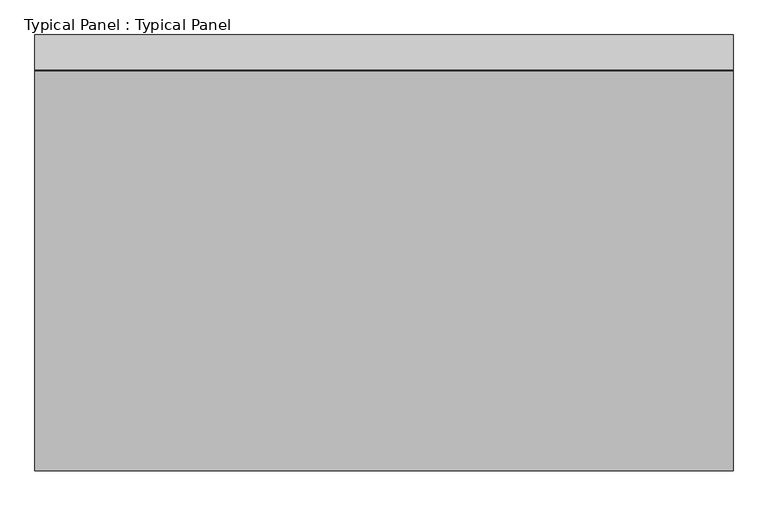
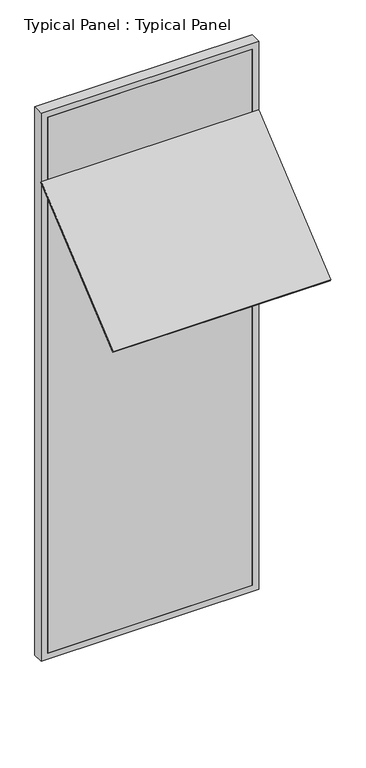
"""IFC4 building model written with IfcOpenShell, lengths in millimetres: plate geometry, Typical Panel : Typical Panel."""

import ifcopenshell
import ifcopenshell.guid

model = None  # the IFC model being written
_history = None  # IfcOwnerHistory: only IFC2X3 demands one
_inside = {}  # id of a spatial element -> (the spatial element, [elements in it])
_under = {}  # id of a project, library or spatial element -> (it, [spatial elements below it])
_declared = {}  # id of a project -> (the project, [libraries it declares])
_typed = {}  # id of a type object -> (the type object, [elements of that type])
_made_of = {}  # id of a material, layer set ... -> (it, [elements and type objects made of it])


def new_model(schema):
    """Start an empty IFC model of exactly this schema.

    Asked for "IFC4X3", IfcOpenShell would pick the latest addendum, in which some entities
    have other attributes; the version numbers below select the first issue.
    IFC2X3 requires an IfcOwnerHistory on every rooted entity: one is made here for all.
    """
    global model, _history
    if schema == "IFC4X3":
        model = ifcopenshell.file(schema_version=(4, 3, 0, 0))
    else:
        model = ifcopenshell.file(schema=schema)
    _inside.clear()
    _under.clear()
    _declared.clear()
    _typed.clear()
    _made_of.clear()
    _history = None
    if model.schema == "IFC2X3":
        org = make("IfcOrganization", Name="unknown")
        user = make(
            "IfcPersonAndOrganization",
            ThePerson=make("IfcPerson", FamilyName="unknown"),
            TheOrganization=org,
        )
        app = make(
            "IfcApplication",
            ApplicationDeveloper=org,
            Version="unknown",
            ApplicationFullName="unknown",
            ApplicationIdentifier="unknown",
        )
        _history = make(
            "IfcOwnerHistory",
            OwningUser=user,
            OwningApplication=app,
            ChangeAction="ADDED",
            CreationDate=0,
        )
    return model


def make(cls, **values):
    """One entity of the class cls with the attributes given. An attribute that is None is left unset."""
    return model.create_entity(
        cls, **{name: value for name, value in values.items() if value is not None}
    )


def rooted(cls, **values):
    """An entity with a GlobalId (a new one), such as an element, a storey or a relation."""
    return make(cls, GlobalId=ifcopenshell.guid.new(), OwnerHistory=_history, **values)


def si_unit(unit_type, name, prefix=None):
    """IfcSIUnit, for example si_unit("LENGTHUNIT", "METRE", prefix="MILLI")."""
    return make("IfcSIUnit", UnitType=unit_type, Prefix=prefix, Name=name)


def assignment(units):
    """IfcUnitAssignment: the units of a project."""
    return None if units is None else make("IfcUnitAssignment", Units=units)


def point(xyz):
    """IfcCartesianPoint."""
    return None if xyz is None else make("IfcCartesianPoint", Coordinates=xyz)


def direction(xyz):
    """IfcDirection."""
    return None if xyz is None else make("IfcDirection", DirectionRatios=xyz)


def frame(location, z_axis=None, x_axis=None):
    """IfcAxis2Placement3D, a coordinate frame: its origin and axes. An axis left out is left unset."""
    return make(
        "IfcAxis2Placement3D",
        Location=point(location),
        Axis=direction(z_axis),
        RefDirection=direction(x_axis),
    )


def origin():
    """The frame at (0, 0, 0) with its axes left unset."""
    return frame((0.0, 0.0, 0.0))


def place(relative_to, where):
    """IfcLocalPlacement: puts the frame where relative to a parent placement (None: the world)."""
    return make(
        "IfcLocalPlacement", PlacementRelTo=relative_to, RelativePlacement=where
    )


def context(
    kind, dimensions, precision=None, world=None, true_north=None, identifier=None
):
    """IfcGeometricRepresentationContext, for example the 3D "Model" context."""
    return make(
        "IfcGeometricRepresentationContext",
        ContextIdentifier=identifier,
        ContextType=kind,
        CoordinateSpaceDimension=dimensions,
        Precision=precision,
        WorldCoordinateSystem=world,
        TrueNorth=true_north,
    )


def project(units=None, contexts=None):
    """IfcProject with its units and contexts."""
    return rooted(
        "IfcProject",
        Name="project",
        RepresentationContexts=contexts,
        UnitsInContext=assignment(units),
    )


def spatial(cls, under=None, at=None, **own):
    """A site, building, storey or space (cls), placed at a placement, below another one or the project."""
    s = rooted(cls, ObjectPlacement=at, **own)
    if under is not None:
        _under.setdefault(under.id(), (under, []))[1].append(s)
    return s


def polyline(points):
    """IfcPolyline through the points."""
    return make("IfcPolyline", Points=[point(p) for p in points])


def outline(outer, holes=None, kind="AREA"):
    """IfcArbitraryClosedProfileDef: a profile drawn as a closed curve; with holes, ...WithVoids."""
    if holes is None:
        return make("IfcArbitraryClosedProfileDef", ProfileType=kind, OuterCurve=outer)
    return make(
        "IfcArbitraryProfileDefWithVoids",
        ProfileType=kind,
        OuterCurve=outer,
        InnerCurves=holes,
    )


def extrude(swept, where, along, depth):
    """IfcExtrudedAreaSolid: the profile swept, set in the frame where, extruded along a direction by depth."""
    return make(
        "IfcExtrudedAreaSolid",
        SweptArea=swept,
        Position=where,
        ExtrudedDirection=direction(along),
        Depth=depth,
    )


def shape(context_of_items, identifier, shape_type, items):
    """IfcShapeRepresentation: the items that make up one representation, for example the "Body"."""
    return make(
        "IfcShapeRepresentation",
        ContextOfItems=context_of_items,
        RepresentationIdentifier=identifier,
        RepresentationType=shape_type,
        Items=items,
    )


def source(mapping_origin, context_of_items, identifier, shape_type, items):
    """IfcRepresentationMap: a shape defined once, which mapped items show again and again."""
    return make(
        "IfcRepresentationMap",
        MappingOrigin=mapping_origin,
        MappedRepresentation=shape(context_of_items, identifier, shape_type, items),
    )


def transform(
    local_origin,
    x_axis=None,
    y_axis=None,
    z_axis=None,
    scale=None,
    scale2=None,
    scale3=None,
    uniform=True,
):
    """IfcCartesianTransformationOperator3D, or its non-uniform kind. x_axis, y_axis, z_axis: its Axis1, 2, 3."""
    if uniform:
        return make(
            "IfcCartesianTransformationOperator3D",
            Axis1=direction(x_axis),
            Axis2=direction(y_axis),
            LocalOrigin=point(local_origin),
            Scale=scale,
            Axis3=direction(z_axis),
        )
    return make(
        "IfcCartesianTransformationOperator3DnonUniform",
        Axis1=direction(x_axis),
        Axis2=direction(y_axis),
        LocalOrigin=point(local_origin),
        Scale=scale,
        Axis3=direction(z_axis),
        Scale2=scale2,
        Scale3=scale3,
    )


def mapped(mapping_source, mapping_target):
    """IfcMappedItem: shows the shape of a source again, moved by a transform."""
    return make(
        "IfcMappedItem", MappingSource=mapping_source, MappingTarget=mapping_target
    )


def made_of(thing, what):
    """Note that an element or type object is made of a material, layer set ...; save() writes the relation."""
    if what is not None:
        _made_of.setdefault(what.id(), (what, []))[1].append(thing)
    return thing


def element(
    cls,
    number,
    at=None,
    inside=None,
    cuts=None,
    type_object=None,
    material=None,
    context=None,
    identifier="Body",
    shape_type=None,
    held_by="IfcProductDefinitionShape",
    body=None,
    shapes=None,
    **own,
):
    """One element of the class cls, such as IfcWall. Its Tag is "e" and its number.

    at: its placement. inside: the storey or other place that contains it. cuts: it is an
    opening in that element (IfcRelVoidsElement). A single representation is given by context,
    identifier, shape_type and body (its items); several are given by shapes. held_by: the class
    of the entity that holds the representations. save() writes the other relations.
    """
    e = rooted(cls, Tag="e%d" % number, ObjectPlacement=at, **own)
    if body is not None:
        shapes = [shape(context, identifier, shape_type, body)]
    if shapes is not None:
        e.Representation = make(held_by, Representations=shapes)
    if inside is not None:
        _inside.setdefault(inside.id(), (inside, []))[1].append(e)
    if cuts is not None:
        rooted(
            "IfcRelVoidsElement", RelatingBuildingElement=cuts, RelatedOpeningElement=e
        )
    if type_object is not None:
        _typed.setdefault(type_object.id(), (type_object, []))[1].append(e)
    return made_of(e, material)


def aggregate(whole, parts):
    """IfcRelAggregates: a whole, such as a stair, and the parts it consists of."""
    return rooted("IfcRelAggregates", RelatingObject=whole, RelatedObjects=parts)


def save(model, path):
    """Write the relations noted so far, then the file.

    IfcRelAggregates (storeys below a building ...), IfcRelContainedInSpatialStructure (elements
    in a storey), IfcRelDefinesByType, IfcRelAssociatesMaterial and IfcRelDeclares: one each for
    every whole, place, type object, material and project.
    """
    for whole, parts in _under.values():
        aggregate(whole, parts)
    for where, things in _inside.values():
        rooted(
            "IfcRelContainedInSpatialStructure",
            RelatedElements=things,
            RelatingStructure=where,
        )
    for kind, things in _typed.values():
        rooted("IfcRelDefinesByType", RelatedObjects=things, RelatingType=kind)
    for what, things in _made_of.values():
        rooted("IfcRelAssociatesMaterial", RelatedObjects=things, RelatingMaterial=what)
    for by, libraries in _declared.values():
        rooted("IfcRelDeclares", RelatingContext=by, RelatedDefinitions=libraries)
    model.write(path)


def typical_panel_typical_panel_7d76078b(model_context):
    return source(origin(), model_context, "Body", "SweptSolid", [
        extrude(outline(polyline([(0.0, -1120.0), (0.0, 0.0), (1500.0, 0.0), (1500.0, -1120.0), (0.0, -1120.0)])), frame((750.0, -856.5419002, 2772.4174327), z_axis=(0.0, -0.6427876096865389, 0.7660444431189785), x_axis=(-1.0, 0.0, 0.0)), (0.0, 0.0, 1.0), 10.0),
        extrude(outline(polyline([(0.0, -750.0), (0.0, 750.0), (4000.0, 750.0), (4000.0, -750.0), (0.0, -750.0)]), holes=[polyline([(45.0, 705.0), (45.0, -705.0), (3955.0, -705.0), (3955.0, 705.0), (45.0, 705.0)])]), frame((0.0, -1.5797986, 0.0), z_axis=(0.0, 1.0, 0.0), x_axis=(0.0, 0.0, 1.0)), (0.0, 0.0, 1.0), 75.0),
        extrude(outline(polyline([(705.0, -1.5797986), (-705.0, -1.5797986), (-705.0, 13.4202014), (705.0, 13.4202014), (705.0, -1.5797986)])), frame((0.0, 0.0, 45.0), z_axis=(0.0, 0.0, 1.0), x_axis=(1.0, 0.0, 0.0)), (0.0, 0.0, 1.0), 3910.0),
    ])


if __name__ == "__main__":
    model = new_model("IFC4")
    model_context = context("Model", 3, world=origin())
    ifc_project = project(units=[si_unit("LENGTHUNIT", "METRE", prefix="MILLI")], contexts=[model_context])
    site = spatial("IfcSite", under=ifc_project)
    building = spatial("IfcBuilding", under=site)
    placement = place(None, origin())
    typical_panel_typical_panel_shape = typical_panel_typical_panel_7d76078b(model_context)
    element("IfcPlate", 1, ObjectType="Typical Panel : Typical Panel", at=placement, inside=building, context=model_context, shape_type="MappedRepresentation", body=[
        mapped(typical_panel_typical_panel_shape, transform((0.0, 0.0, 0.0), x_axis=(1.0, 0.0, 0.0), y_axis=(0.0, 1.0, 0.0), z_axis=(0.0, 0.0, 1.0))),
    ])
    save(model, "model.ifc")
